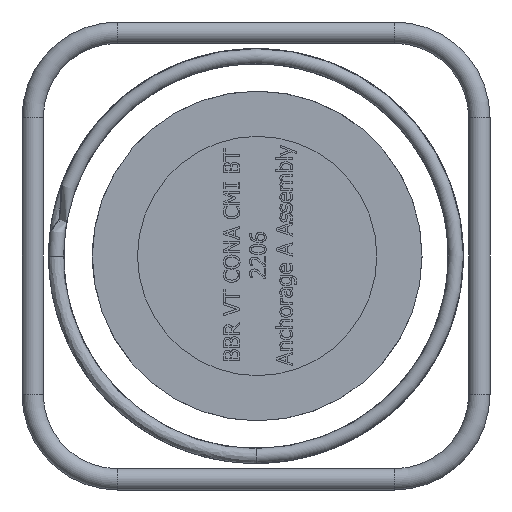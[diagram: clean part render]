
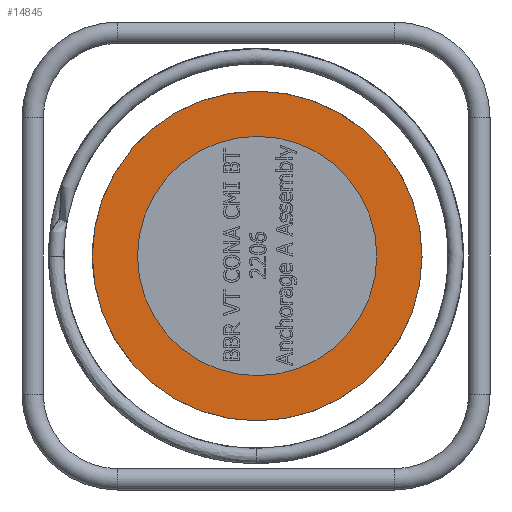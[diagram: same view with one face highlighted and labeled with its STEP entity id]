
A CAD part, left-side view. The second image highlights one B-rep face of the part: STEP entity #14845.
In plain terms, the highlighted planar face has unit normal (-1, 0, 0).
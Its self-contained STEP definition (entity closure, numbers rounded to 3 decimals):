
#92=FACE_BOUND('',#5086,.T.);
#1317=PLANE('',#15408);
#4248=FACE_OUTER_BOUND('',#5085,.T.);
#5085=EDGE_LOOP('',(#12494));
#5086=EDGE_LOOP('',(#12495));
#5295=CIRCLE('',#15409,155.);
#5296=CIRCLE('',#15410,112.5);
#6755=VERTEX_POINT('',#25988);
#6756=VERTEX_POINT('',#25990);
#8706=EDGE_CURVE('',#6755,#6755,#5295,.T.);
#8707=EDGE_CURVE('',#6756,#6756,#5296,.T.);
#12494=ORIENTED_EDGE('',*,*,#8706,.T.);
#12495=ORIENTED_EDGE('',*,*,#8707,.F.);
#14845=ADVANCED_FACE('',(#4248,#92),#1317,.T.);
#15408=AXIS2_PLACEMENT_3D('',#25987,#17689,#17690);
#15409=AXIS2_PLACEMENT_3D('',#25989,#17691,#17692);
#15410=AXIS2_PLACEMENT_3D('',#25991,#17693,#17694);
#17689=DIRECTION('center_axis',(-1.,0.,0.));
#17690=DIRECTION('ref_axis',(0.,1.,0.));
#17691=DIRECTION('center_axis',(-1.,0.,0.));
#17692=DIRECTION('ref_axis',(0.,0.,
1.));
#17693=DIRECTION('center_axis',(-1.,0.,0.));
#17694=DIRECTION('ref_axis',(0.,-1.,0.));
#25987=CARTESIAN_POINT('Origin',(-177.129,-1.123,123.5));
#25988=CARTESIAN_POINT('',(-177.129,-1.123,-155.));
#25989=CARTESIAN_POINT('Origin',(-177.129,-1.123,0.));
#25990=CARTESIAN_POINT('',(-177.129,111.377,0.));
#25991=CARTESIAN_POINT('Origin',(-177.129,-1.123,0.));
